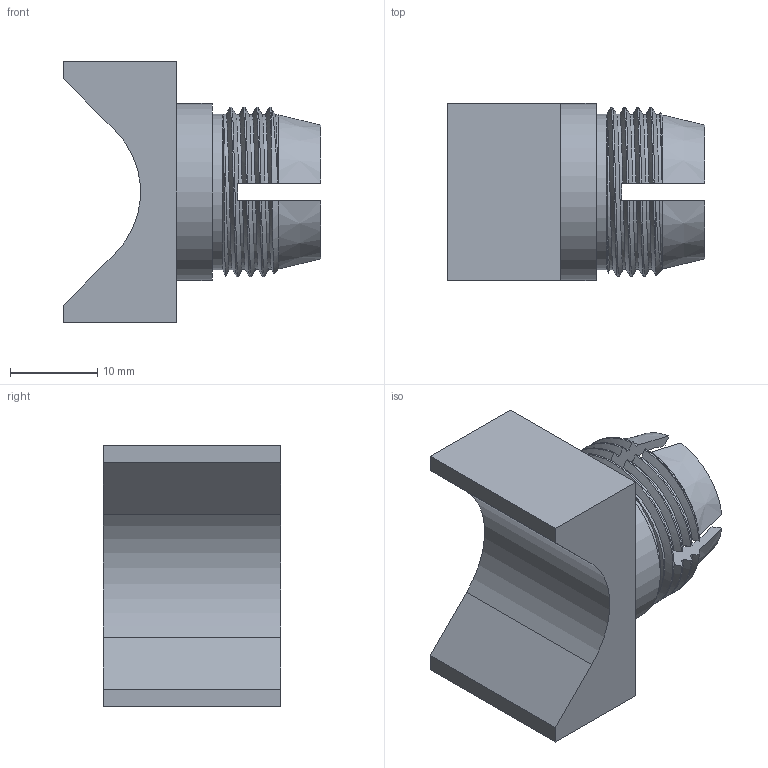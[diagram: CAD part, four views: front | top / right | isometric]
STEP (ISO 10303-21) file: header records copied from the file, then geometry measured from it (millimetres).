
FILE_DESCRIPTION (( 'STEP AP214' ), '1' );
FILE_NAME ('P001-B105_BikeMount_Rev2D-1.STEP', '2026-04-20T05:40:49', ( '' ), ( '' ), 'SwSTEP 2.0', 'SolidWorks 2024', '' );
FILE_SCHEMA (( 'AUTOMOTIVE_DESIGN' ));
Length unit declared in the file: millimetre
Products named in the file (1): P001-B105_BikeMount_Rev2D-1
Bounding box: 29.51 x 20.32 x 30 mm (x, y, z)
Volume: 7662.1 mm3; surface area: 3870.5 mm2
Topology: 1 solids, 1 shells, 98 faces, 284 edges, 189 vertices
Faces by surface type: bspline 38, plane 27, cylinder 18, cone 10, torus 4, sphere 1
Full cylindrical faces by diameter (mm): 17.816 x1, 20.32 x1
Entity records: 13457 total; most frequent: CARTESIAN_POINT 11380, ORIENTED_EDGE 558, EDGE_CURVE 279, DIRECTION 276, VERTEX_POINT 187, B_SPLINE_CURVE_WITH_KNOTS 103, AXIS2_PLACEMENT_3D 103, EDGE_LOOP 102
